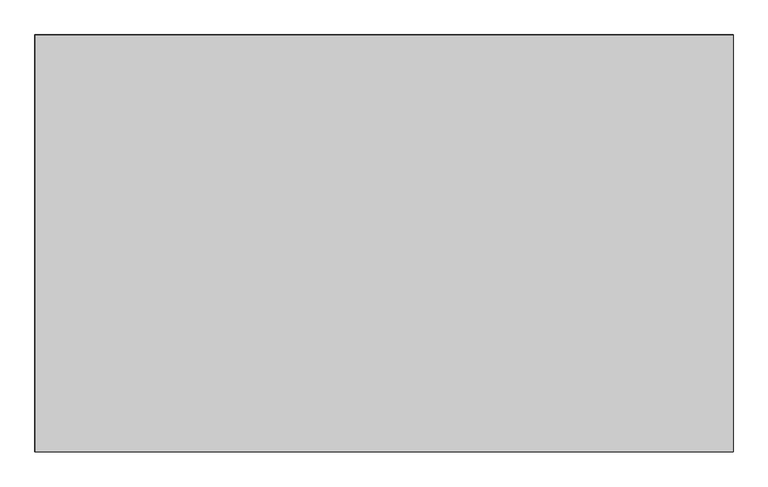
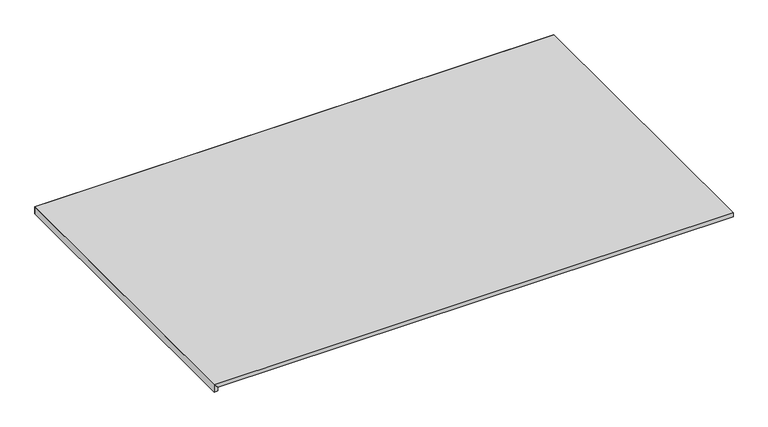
"""IFC4 building model written with IfcOpenShell, lengths in millimetres: proxy geometry, FOUNDATION^PO 3_WALL HUNG WORK WALL-PARTS SOLID."""

from ifc_helpers import new_model, si_unit, origin, place, context, project, spatial, faceted_brep, source, transform, mapped, element, save


def generic_models_c48ea4ac(model_context):
    return source(origin(), model_context, "Body", "Brep", [
        faceted_brep([(19.05, 1530.35, -38.1), (19.05, 1530.35, -19.05), (19.05, 0.0, -19.05), (19.05, 0.0, -38.1), (0.0, 1549.4, 0.0), (0.0, 0.0, 0.0), (0.0, 1549.4, -38.1), (0.0, 0.0, -38.1)], [[[0, 1, 2, 3]], [[1, 4, 5, 2]], [[4, 6, 7, 5]], [[6, 0, 3, 7]], [[3, 2, 5, 7]], [[4, 1, 0, 6]]]),
        faceted_brep([(2590.8, 0.0, -19.05), (2590.8, 0.0, 0.0), (0.0, 0.0, 0.0), (19.05, 0.0, -19.05), (2590.8, 1530.35, -19.05), (2590.8, 1549.4, 0.0), (0.0, 1549.4, 0.0), (19.05, 1530.35, -19.05)], [[[0, 1, 2, 3]], [[1, 0, 4, 5]], [[2, 1, 5, 6]], [[0, 3, 7, 4]], [[6, 7, 3, 2]], [[7, 6, 5, 4]]]),
        faceted_brep([(0.0, 1549.4, -38.1), (19.05, 1530.35, -38.1), (19.05, 1530.35, -19.05), (0.0, 1549.4, 0.0), (2590.8, 1530.35, -19.05), (2590.8, 1549.4, 0.0), (2590.8, 1530.35, -38.1), (2590.8, 1549.4, -38.1)], [[[0, 1, 2, 3]], [[3, 2, 4, 5]], [[2, 1, 6, 4]], [[0, 3, 5, 7]], [[1, 0, 7, 6]], [[6, 7, 5, 4]]]),
    ])


if __name__ == "__main__":
    model = new_model("IFC4")
    model_context = context("Model", 3, world=origin())
    ifc_project = project(units=[si_unit("LENGTHUNIT", "METRE", prefix="MILLI")], contexts=[model_context])
    site = spatial("IfcSite", under=ifc_project)
    building = spatial("IfcBuilding", under=site)
    placement = place(None, origin())
    generic_models_shape = generic_models_c48ea4ac(model_context)
    element("IfcBuildingElementProxy", 1, Name="FOUNDATION^PO 3_WALL HUNG WORK WALL-PARTS SOLID", ObjectType="FOUNDATION^PO 3_WALL HUNG WORK WALL-PARTS SOLID", at=placement, inside=building, context=model_context, shape_type="MappedRepresentation", body=[
        mapped(generic_models_shape, transform((0.0, 0.0, 0.0), x_axis=(1.0, 0.0, 0.0), y_axis=(0.0, 1.0, 0.0), z_axis=(0.0, 0.0, 1.0))),
    ])
    save(model, "model.ifc")
